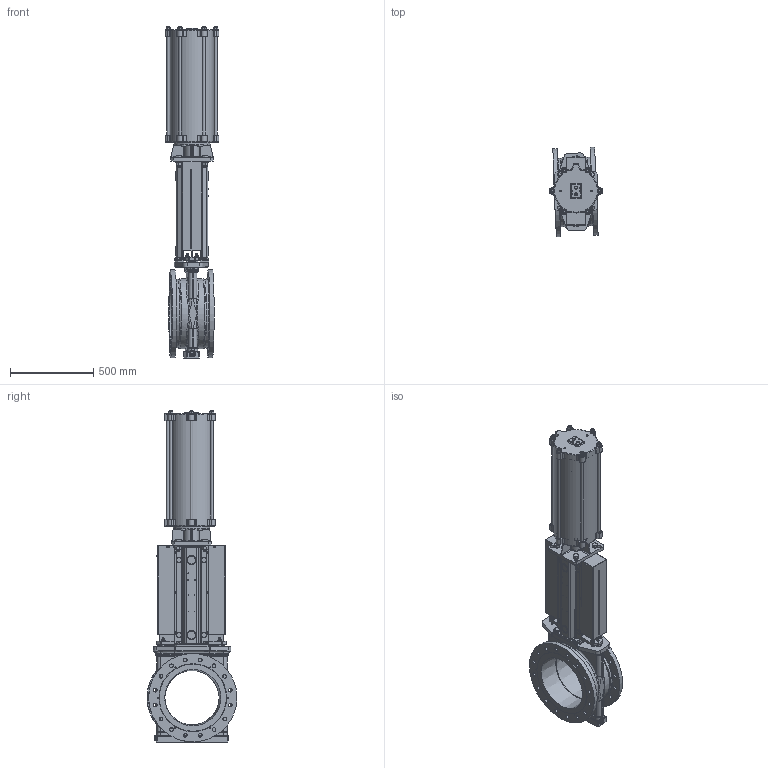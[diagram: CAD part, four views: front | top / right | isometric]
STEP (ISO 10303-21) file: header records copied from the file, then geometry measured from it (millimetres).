
FILE_DESCRIPTION(/* description */ (''),/* implementation_level */ '2;1');
FILE_NAME(/* name */ 'F:\3D-block färdiga för export\SLV-SLF\DN 350\SFL-DN350-PN10-SC250.stp',/* time_stamp */ '2021-06-17T08:57:18+02:00',/* author */ ('MATZET'),/* organization */ (''),/* preprocessor_version */ 'ST-DEVELOPER v18',/* originating_system */ 'Autodesk Inventor 2020',/* authorisation */ '');
FILE_SCHEMA (('AUTOMOTIVE_DESIGN { 1 0 10303 214 3 1 1 }'));
Length unit declared in the file: millimetre
Products named in the file (1): SFL-DN350-PN10-SC250
Bounding box: 322 x 539.51 x 1991.5 mm (x, y, z)
Volume: 38903493.8 mm3; surface area: 6602982.4 mm2
Topology: 3 solids, 3 shells, 3158 faces, 8018 edges, 5012 vertices
Faces by surface type: plane 1189, cylinder 907, cone 338, torus 298, bspline 298, sphere 128
Full cylindrical faces by diameter (mm): 2.459 x8, 3.5 x8, 4 x26, 4.917 x19, 5 x8, 6 x1, 6.647 x4, 7 x14, 7.5 x4, 8.376 x14, 8.88 x1, 9.5 x2, 10.106 x12, 12 x10, 12.5 x6, 13 x8, 14 x7, 15 x9, 16 x12, 17 x6, 17.5 x6, 18 x1, 18.2 x4, 18.5 x2, 18.631 x2, 19 x8, 20 x10, 20.5 x2, 21 x5, 22 x33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
Entity records: 110112 total; most frequent: CARTESIAN_POINT 32193, DIRECTION 16369, ORIENTED_EDGE 15832, EDGE_CURVE 7916, AXIS2_PLACEMENT_3D 6711, VERTEX_POINT 5010, CIRCLE 3745, EDGE_LOOP 3642
